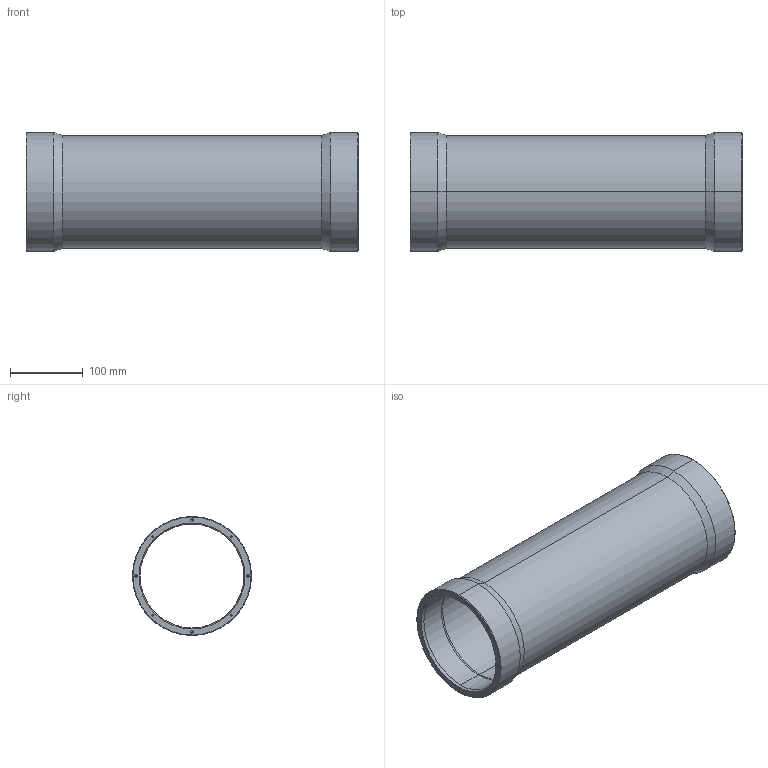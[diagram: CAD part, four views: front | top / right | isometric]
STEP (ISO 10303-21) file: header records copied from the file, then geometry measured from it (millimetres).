
FILE_DESCRIPTION (( 'STEP AP203' ), '1' );
FILE_NAME ('100221909 Housing B Tube_A.STEP', '2023-09-14T16:52:00', ( '' ), ( '' ), 'SwSTEP 2.0', 'SolidWorks 2023', '' );
FILE_SCHEMA (( 'CONFIG_CONTROL_DESIGN' ));
Length unit declared in the file: inch
Products named in the file (1): 100221909 Housing B Tube_A
Bounding box: 457.2 x 163.83 x 163.83 mm (x, y, z)
Volume: 1266046.5 mm3; surface area: 444209.7 mm2
Topology: 1 solids, 1 shells, 94 faces, 220 edges, 112 vertices
Faces by surface type: cone 44, cylinder 44, torus 4, plane 2
Entity records: 2515 total; most frequent: DIRECTION 478, CARTESIAN_POINT 395, ORIENTED_EDGE 376, AXIS2_PLACEMENT_3D 195, EDGE_CURVE 188, EDGE_LOOP 112, VERTEX_POINT 112, CIRCLE 100
